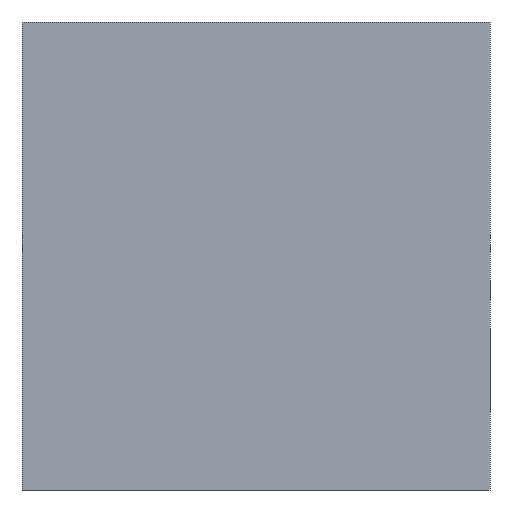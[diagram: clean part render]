
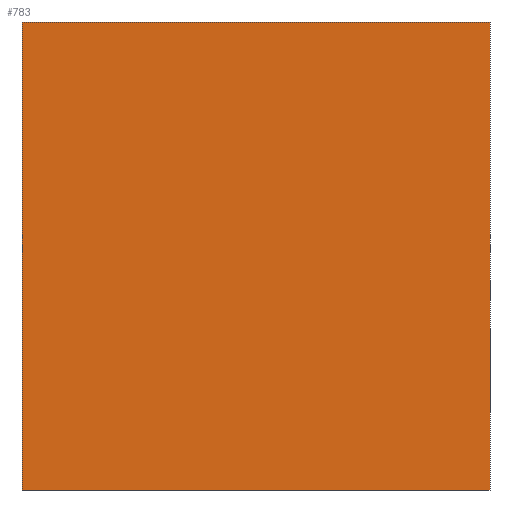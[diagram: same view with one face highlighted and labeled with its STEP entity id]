
A CAD part, left-side view. The second image highlights one B-rep face of the part: STEP entity #783.
In plain terms, the highlighted planar face has unit normal (-1, 0, 0).
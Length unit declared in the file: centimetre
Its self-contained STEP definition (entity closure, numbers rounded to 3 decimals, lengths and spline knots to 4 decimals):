
#8 = EDGE_LOOP ( 'NONE', ( #324, #233, #566, #689 ) ) ;
#38 = DIRECTION ( 'NONE',  ( 0., -1., 0. ) ) ;
#95 = VERTEX_POINT ( 'NONE', #137 ) ;
#123 = CARTESIAN_POINT ( 'NONE',  ( 0., 0., 0. ) ) ;
#137 = CARTESIAN_POINT ( 'NONE',  ( 0., 1000., 0. ) ) ;
#157 = PLANE ( 'NONE',  #951 ) ;
#233 = ORIENTED_EDGE ( 'NONE', *, *, #771, .F. ) ;
#247 = EDGE_CURVE ( 'NONE', #868, #296, #1230, .T. ) ;
#274 = CARTESIAN_POINT ( 'NONE',  ( 0., 0., 1000. ) ) ;
#275 = DIRECTION ( 'NONE',  ( 0., -1., 0. ) ) ;
#296 = VERTEX_POINT ( 'NONE', #1038 ) ;
#324 = ORIENTED_EDGE ( 'NONE', *, *, #544, .T. ) ;
#422 = CARTESIAN_POINT ( 'NONE',  ( 0., 1000., 0. ) ) ;
#436 = CARTESIAN_POINT ( 'NONE',  ( 0., 1000., 1000. ) ) ;
#452 = FACE_OUTER_BOUND ( 'NONE', #8, .T. ) ;
#468 = VECTOR ( 'NONE', #1026, 100. ) ;
#520 = LINE ( 'NONE', #1004, #468 ) ;
#544 = EDGE_CURVE ( 'NONE', #95, #995, #904, .T. ) ;
#555 = VECTOR ( 'NONE', #1037, 100. ) ;
#566 = ORIENTED_EDGE ( 'NONE', *, *, #247, .F. ) ;
#635 = DIRECTION ( 'NONE',  ( 1., 0., 0. ) ) ;
#643 = LINE ( 'NONE', #274, #555 ) ;
#649 = DIRECTION ( 'NONE',  ( 0., 0., -1. ) ) ;
#689 = ORIENTED_EDGE ( 'NONE', *, *, #1192, .T. ) ;
#771 = EDGE_CURVE ( 'NONE', #296, #995, #643, .T. ) ;
#783 = ADVANCED_FACE ( 'NONE', ( #452 ), #157, .F. ) ;
#868 = VERTEX_POINT ( 'NONE', #966 ) ;
#904 = LINE ( 'NONE', #422, #950 ) ;
#925 = VECTOR ( 'NONE', #275, 100. ) ;
#950 = VECTOR ( 'NONE', #38, 100. ) ;
#951 = AXIS2_PLACEMENT_3D ( 'NONE', #1050, #635, #649 ) ;
#966 = CARTESIAN_POINT ( 'NONE',  ( 0., 1000., 1000. ) ) ;
#995 = VERTEX_POINT ( 'NONE', #123 ) ;
#1004 = CARTESIAN_POINT ( 'NONE',  ( 0., 1000., 1000. ) ) ;
#1026 = DIRECTION ( 'NONE',  ( 0., 0., -1. ) ) ;
#1037 = DIRECTION ( 'NONE',  ( 0., 0., -1. ) ) ;
#1038 = CARTESIAN_POINT ( 'NONE',  ( 0., 0., 1000. ) ) ;
#1050 = CARTESIAN_POINT ( 'NONE',  ( 0., 1000., 1000. ) ) ;
#1192 = EDGE_CURVE ( 'NONE', #868, #95, #520, .T. ) ;
#1230 = LINE ( 'NONE', #436, #925 ) ;
